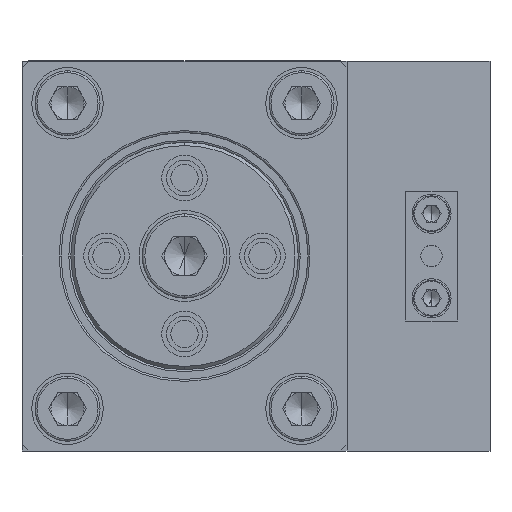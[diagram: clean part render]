
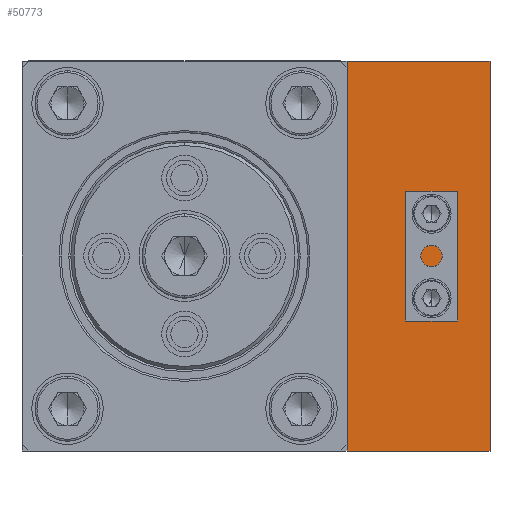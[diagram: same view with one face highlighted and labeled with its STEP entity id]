
A CAD part, left-side view. The second image highlights one B-rep face of the part: STEP entity #50773.
In plain terms, the highlighted planar face has unit normal (-1, 0, 0).
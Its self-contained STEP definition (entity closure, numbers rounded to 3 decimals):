
#3192 = CARTESIAN_POINT ( 'NONE',  ( -50., 9., 5.25 ) ) ;
#3212 = CARTESIAN_POINT ( 'NONE',  ( -50., 0., 30. ) ) ;
#3333 = CARTESIAN_POINT ( 'NONE',  ( -50., 9., 7.75 ) ) ;
#3357 = CARTESIAN_POINT ( 'NONE',  ( -50., 0., -30. ) ) ;
#3425 = CARTESIAN_POINT ( 'NONE',  ( -50., 22., -30. ) ) ;
#3458 = CARTESIAN_POINT ( 'NONE',  ( -50., 9., -5.25 ) ) ;
#3588 = CARTESIAN_POINT ( 'NONE',  ( -50., 22., 30. ) ) ;
#3904 = CARTESIAN_POINT ( 'NONE',  ( -50., 9., -7.75 ) ) ;
#7553 = CIRCLE ( 'NONE', #8411, 1.25 ) ;
#7560 = CIRCLE ( 'NONE', #8412, 1.25 ) ;
#8411 = AXIS2_PLACEMENT_3D ( 'NONE', #22223, #22226, #22228 ) ;
#8412 = AXIS2_PLACEMENT_3D ( 'NONE', #22245, #22247, #22248 ) ;
#8526 = AXIS2_PLACEMENT_3D ( 'NONE', #27509, #27522, #27523 ) ;
#8527 = AXIS2_PLACEMENT_3D ( 'NONE', #27512, #27526, #27527 ) ;
#8819 = LINE ( 'NONE', #22779, #8820 ) ;
#8820 = VECTOR ( 'NONE', #22780, 1000. ) ;
#8873 = LINE ( 'NONE', #22866, #8878 ) ;
#8878 = VECTOR ( 'NONE', #22869, 1000. ) ;
#9299 = VERTEX_POINT ( 'NONE', #3192 ) ;
#9314 = VERTEX_POINT ( 'NONE', #3212 ) ;
#9408 = VERTEX_POINT ( 'NONE', #3333 ) ;
#9425 = VERTEX_POINT ( 'NONE', #3357 ) ;
#9480 = VERTEX_POINT ( 'NONE', #3425 ) ;
#9506 = VERTEX_POINT ( 'NONE', #3458 ) ;
#9619 = VERTEX_POINT ( 'NONE', #3588 ) ;
#9864 = VERTEX_POINT ( 'NONE', #3904 ) ;
#10725 = PLANE ( 'NONE',  #69176 ) ;
#10726 = CARTESIAN_POINT ( 'NONE',  ( -50., 22., -30. ) ) ;
#10727 = DIRECTION ( 'NONE',  ( -1., 0., 0. ) ) ;
#10728 = DIRECTION ( 'NONE',  ( 0., 0., 1. ) ) ;
#11724 = FACE_BOUND ( 'NONE', #14743, .T. ) ;
#11728 = FACE_BOUND ( 'NONE', #23410, .T. ) ;
#11730 = FACE_OUTER_BOUND ( 'NONE', #14989, .T. ) ;
#13062 = LINE ( 'NONE', #27491, #13065 ) ;
#13065 = VECTOR ( 'NONE', #27492, 1000. ) ;
#13074 = LINE ( 'NONE', #27516, #13077 ) ;
#13077 = VECTOR ( 'NONE', #27518, 1000. ) ;
#13084 = CIRCLE ( 'NONE', #8526, 1.25 ) ;
#13085 = CIRCLE ( 'NONE', #8527, 1.25 ) ;
#14743 = EDGE_LOOP ( 'NONE', ( #15893, #15836 ) ) ;
#14989 = EDGE_LOOP ( 'NONE', ( #15782, #15766, #15956, #15877 ) ) ;
#15730 = ORIENTED_EDGE ( 'NONE', *, *, #18431, .F. ) ;
#15766 = ORIENTED_EDGE ( 'NONE', *, *, #18589, .F. ) ;
#15782 = ORIENTED_EDGE ( 'NONE', *, *, #29005, .T. ) ;
#15785 = ORIENTED_EDGE ( 'NONE', *, *, #29030, .F. ) ;
#15836 = ORIENTED_EDGE ( 'NONE', *, *, #18427, .F. ) ;
#15877 = ORIENTED_EDGE ( 'NONE', *, *, #18674, .T. ) ;
#15893 = ORIENTED_EDGE ( 'NONE', *, *, #29032, .F. ) ;
#15956 = ORIENTED_EDGE ( 'NONE', *, *, #29026, .F. ) ;
#18427 = EDGE_CURVE ( 'NONE', #9299, #9408, #7553, .T. ) ;
#18431 = EDGE_CURVE ( 'NONE', #9864, #9506, #7560, .T. ) ;
#18589 = EDGE_CURVE ( 'NONE', #9619, #9314, #8819, .T. ) ;
#18674 = EDGE_CURVE ( 'NONE', #9480, #9425, #8873, .T. ) ;
#22223 = CARTESIAN_POINT ( 'NONE',  ( -50., 9., 6.5 ) ) ;
#22226 = DIRECTION ( 'NONE',  ( -1., 0., 0. ) ) ;
#22228 = DIRECTION ( 'NONE',  ( 0., 0., 1. ) ) ;
#22245 = CARTESIAN_POINT ( 'NONE',  ( -50., 9., -6.5 ) ) ;
#22247 = DIRECTION ( 'NONE',  ( -1., 0., 0. ) ) ;
#22248 = DIRECTION ( 'NONE',  ( 0., 0., 1. ) ) ;
#22779 = CARTESIAN_POINT ( 'NONE',  ( -50., 22., 30. ) ) ;
#22780 = DIRECTION ( 'NONE',  ( 0., -1., 0. ) ) ;
#22866 = CARTESIAN_POINT ( 'NONE',  ( -50., 22., -30. ) ) ;
#22869 = DIRECTION ( 'NONE',  ( 0., -1., 0. ) ) ;
#23410 = EDGE_LOOP ( 'NONE', ( #15785, #15730 ) ) ;
#27491 = CARTESIAN_POINT ( 'NONE',  ( -50., 0., -30. ) ) ;
#27492 = DIRECTION ( 'NONE',  ( 0., 0., 1. ) ) ;
#27509 = CARTESIAN_POINT ( 'NONE',  ( -50., 9., -6.5 ) ) ;
#27512 = CARTESIAN_POINT ( 'NONE',  ( -50., 9., 6.5 ) ) ;
#27516 = CARTESIAN_POINT ( 'NONE',  ( -50., 22., -30. ) ) ;
#27518 = DIRECTION ( 'NONE',  ( 0., 0., 1. ) ) ;
#27522 = DIRECTION ( 'NONE',  ( -1., 0., 0. ) ) ;
#27523 = DIRECTION ( 'NONE',  ( 0., 0., 1. ) ) ;
#27526 = DIRECTION ( 'NONE',  ( -1., 0., 0. ) ) ;
#27527 = DIRECTION ( 'NONE',  ( 0., 0., 1. ) ) ;
#29005 = EDGE_CURVE ( 'NONE', #9425, #9314, #13062, .T. ) ;
#29026 = EDGE_CURVE ( 'NONE', #9480, #9619, #13074, .T. ) ;
#29030 = EDGE_CURVE ( 'NONE', #9506, #9864, #13084, .T. ) ;
#29032 = EDGE_CURVE ( 'NONE', #9408, #9299, #13085, .T. ) ;
#50773 = ADVANCED_FACE ( 'NONE', ( #11728, #11724, #11730 ), #10725, .T. ) ;
#69176 = AXIS2_PLACEMENT_3D ( 'NONE', #10726, #10727, #10728 ) ;
